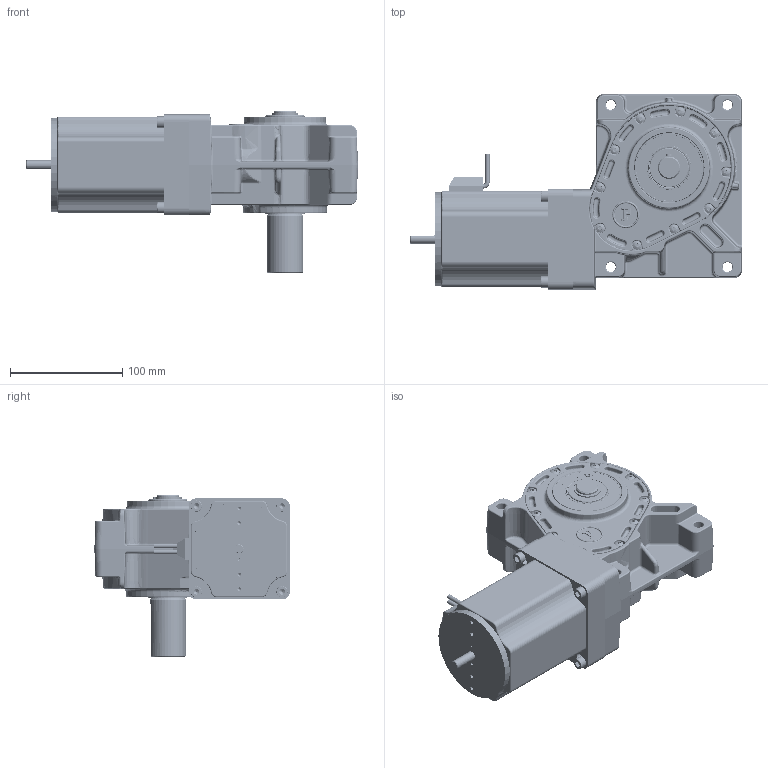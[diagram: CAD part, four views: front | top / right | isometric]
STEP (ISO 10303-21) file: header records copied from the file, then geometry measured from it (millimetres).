
FILE_DESCRIPTION (( 'STEP AP214' ), '1' );
FILE_NAME ('PBL86-55-GB65 - Shaft.STEP', '2024-09-15T08:33:54', ( '' ), ( '' ), 'SwSTEP 2.0', 'SolidWorks 2023', '' );
FILE_SCHEMA (( 'AUTOMOTIVE_DESIGN' ));
Length unit declared in the file: millimetre
Products named in the file (1): PBL86-55-GB65 - Shaft
Bounding box: 295.95 x 174.1 x 145 mm (x, y, z)
Surface area: 393774 mm2 (no closed solid volume)
Topology: 0 solids, 69 shells, 4941 faces, 12145 edges, 7295 vertices
Faces by surface type: bspline 1215, cylinder 1196, plane 1090, torus 702, cone 582, sphere 156
Entity records: 257897 total; most frequent: CARTESIAN_POINT 95280, ORIENTED_EDGE 23708, DIRECTION 21230, EDGE_CURVE 11854, AXIS2_PLACEMENT_3D 8672, VERTEX_POINT 7275, EDGE_LOOP 5261, UNCERTAINTY_MEASURE_WITH_UNIT 4983
